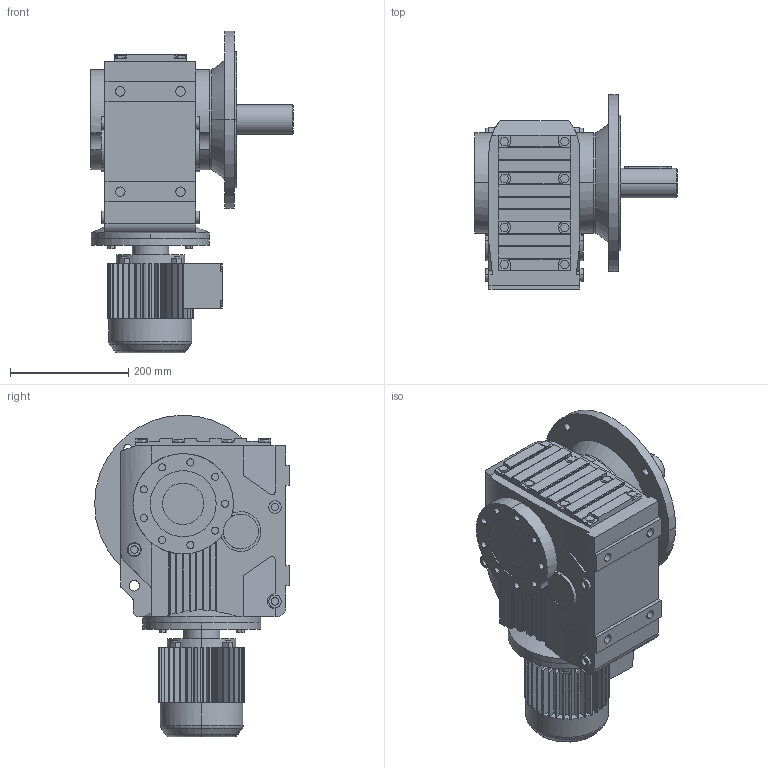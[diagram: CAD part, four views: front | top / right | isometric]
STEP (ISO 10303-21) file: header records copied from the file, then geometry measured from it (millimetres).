
FILE_DESCRIPTION(('Open CASCADE Model'),'2;1');
FILE_NAME('Open CASCADE Shape Model','2021-07-20T14:39:19',('Author'),( 'Open CASCADE'),'Open CASCADE STEP processor 6.3','Open CASCADE 6.3' ,'Unknown');
FILE_SCHEMA(('AUTOMOTIVE_DESIGN_CC2 { 1 2 10303 214 -1 1 5 4 }'));
Length unit declared in the file: millimetre
Products named in the file (5): 1_KF77DT71D-A; KA37‵107_77.step; 萇儂_200-DT71D-193-257-145-122.step; す瑩妗陑粣K_77.step; 楊擘K_77.step
Assembly tree (4 placements, depth 2):
  1_KF77DT71D-A
    KA37‵107_77.step
    萇儂_200-DT71D-193-257-145-122.step
    す瑩妗陑粣K_77.step
    楊擘K_77.step
Bounding box: 343 x 330 x 545 mm (x, y, z)
Volume: 17679293.1 mm3; surface area: 951867.1 mm2
Topology: 4 solids, 4 shells, 888 faces, 2298 edges, 1493 vertices
Faces by surface type: plane 563, cylinder 305, cone 16, torus 4
Entity records: 66105 total; most frequent: CARTESIAN_POINT 23048, DIRECTION 7201, ORIENTED_EDGE 4592, PCURVE 4592, DEFINITIONAL_REPRESENTATION 4592, LINE 3652, VECTOR 3652, EDGE_CURVE 2296
